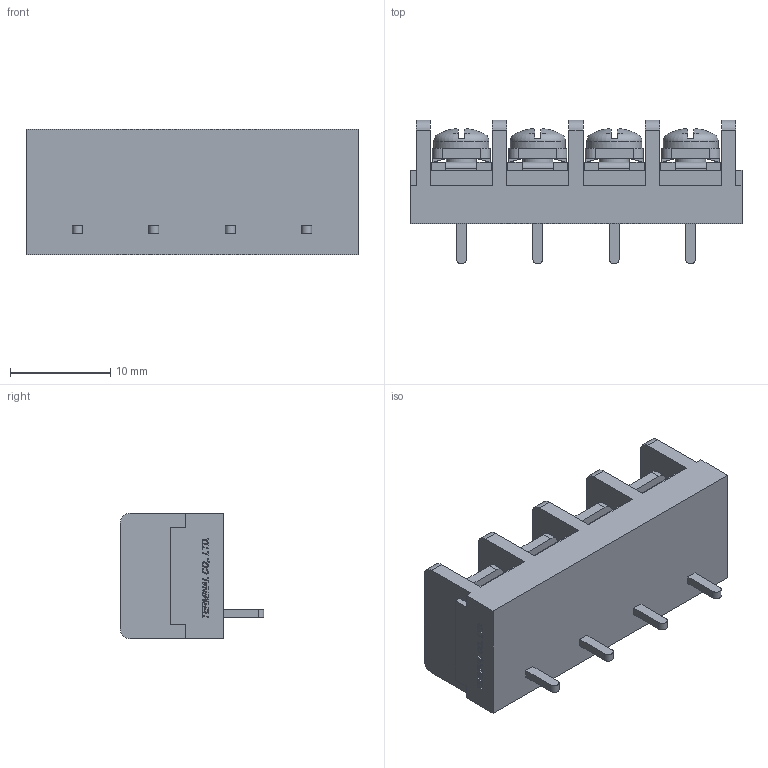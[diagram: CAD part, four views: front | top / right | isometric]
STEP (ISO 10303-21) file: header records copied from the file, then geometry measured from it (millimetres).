
FILE_DESCRIPTION(/* description */ ('Alibre Inc.'),/* implementation_level */ '2;1');
FILE_NAME(/* name */ 'export0',/* time_stamp */ '2015-10-26T17:22:42+09:00',/* author */ (''),/* organization */ (''),/* preprocessor_version */ 'ST-DEVELOPER v14',/* originating_system */ 'Alibre',/* authorisation */ '');
FILE_SCHEMA (('CONFIG_CONTROL_DESIGN'));
Length unit declared in the file: centimetre
Products named in the file (1): ID_1
Bounding box: 33.1 x 14.3 x 12.5 mm (x, y, z)
Volume: 3000.6 mm3; surface area: 2801.7 mm2
Topology: 1 solids, 1 shells, 778 faces, 2124 edges, 1404 vertices
Faces by surface type: plane 592, bspline 104, cylinder 50, cone 16, torus 8, sphere 8
Full cylindrical faces by diameter (mm): 3 x4, 5.5 x4
Entity records: 23545 total; most frequent: CARTESIAN_POINT 5471, ORIENTED_EDGE 4184, DIRECTION 2702, EDGE_CURVE 2092, VECTOR 1540, LINE 1540, VERTEX_POINT 1388, AXIS2_PLACEMENT_3D 855
